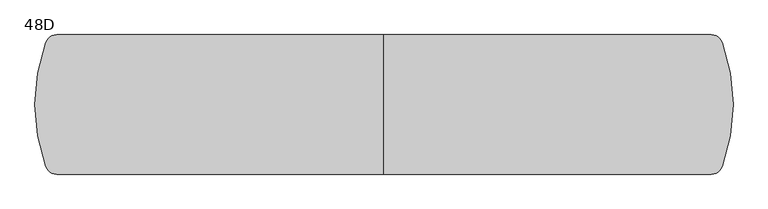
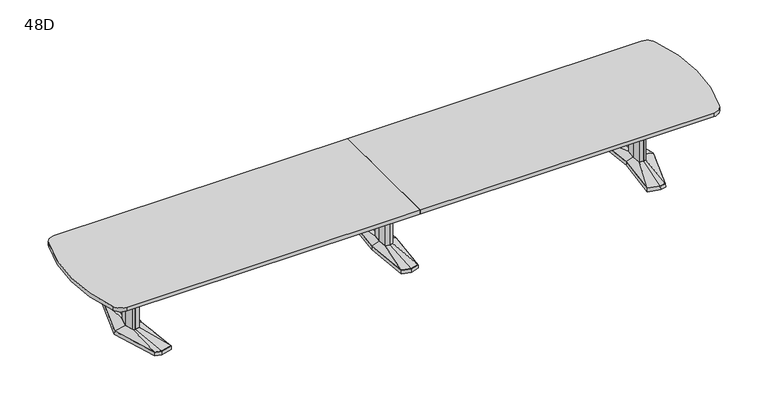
"""IFC4 building model written with IfcOpenShell, lengths in millimetres: furniture geometry, Coalesse_AM_Table_Conference_ETable2_SoftRadiused_20ft_AluminiumBase : 48D."""

from ifc_helpers import new_model, si_unit, point, frame, frame_2d, origin, place, context, project, spatial, polyline, circle_curve, trimmed, segment, composite_curve, outline, extrude, faceted_brep, source, transform, mapped, element, save
from ifc_brep_helpers import plane_surface, spline_surface, advanced_brep


def furniture_48d_c8c20718(model_context):
    return source(origin(), model_context, "Body", "SolidModel", [
        faceted_brep([(-81.2333791, -433.8053819, 38.1), (0.0, -455.556576, 38.1), (81.2333791, -433.8053819, 38.1), (119.0564774, 0.0, 38.1), (81.2333791, 433.8053819, 38.1), (0.0, 455.556576, 38.1), (-81.2333791, 433.8053819, 38.1), (-119.0564774, 0.0, 38.1), (-82.7182795, -435.0512063, 3.175), (-120.65, 0.0, 3.175), (-82.7182795, 435.0512063, 3.175), (0.0, 457.2, 3.175), (82.7182795, 435.0512063, 3.175), (120.65, 0.0, 3.175), (82.7182795, -435.0512063, 3.175), (0.0, -457.2, 3.175), (0.0, 429.2617927, 3.175), (-77.9676806, 408.3850278, 3.175), (-74.7019821, 382.9646737, 3.175), (0.0, 402.9670094, 3.175), (74.7019821, 382.9646737, 3.175), (77.9676806, 408.3850278, 3.175), (0.0, -429.2617927, 3.175), (77.9676806, -408.3850278, 3.175), (74.7019821, -382.9646737, 3.175), (0.0, -402.9670094, 3.175), (-74.7019821, -382.9646737, 3.175), (-77.9676806, -408.3850278, 3.175), (-71.8574262, 114.6326257, 3.175), (-82.5426076, 0.0, 3.175), (-71.8574262, -114.6326257, 3.175), (0.0, -133.8761372, 3.175), (71.8574262, -114.6326257, 3.175), (82.5426076, 0.0, 3.175), (71.8574262, 114.6326257, 3.175), (0.0, 133.8761372, 3.175), (0.0, 429.2617927, 0.0), (77.9676806, 408.3850278, 0.0), (74.7019821, 382.9646737, 0.0), (0.0, 402.9670094, 0.0), (-74.7019821, 382.9646737, 0.0), (-77.9676806, 408.3850278, 0.0), (0.0, -429.2617927, 0.0), (-77.9676806, -408.3850278, 0.0), (-74.7019821, -382.9646737, 0.0), (0.0, -402.9670094, 0.0), (74.7019821, -382.9646737, 0.0), (77.9676806, -408.3850278, 0.0), (-71.8574262, 114.6326257, 0.0), (0.0, 133.8761372, 0.0), (71.8574262, 114.6326257, 0.0), (82.5426076, 0.0, 0.0), (71.8574262, -114.6326257, 0.0), (0.0, -133.8761372, 0.0), (-71.8574262, -114.6326257, 0.0), (-82.5426076, 0.0, 0.0)], [[[0, 1, 2, 3, 4, 5, 6, 7]], [[8, 9, 10, 11, 12, 13, 14, 15], [16, 17, 18, 19, 20, 21], [22, 23, 24, 25, 26, 27], [28, 29, 30, 31, 32, 33, 34, 35]], [[1, 0, 8, 15]], [[2, 1, 15, 14]], [[3, 2, 14, 13]], [[4, 3, 13, 12]], [[5, 4, 12, 11]], [[6, 5, 11, 10]], [[7, 6, 10, 9]], [[0, 7, 9, 8]], [[36, 37, 38, 39, 40, 41]], [[42, 43, 44, 45, 46, 47]], [[48, 49, 50, 51, 52, 53, 54, 55]], [[36, 41, 17, 16]], [[41, 40, 18, 17]], [[40, 39, 19, 18]], [[39, 38, 20, 19]], [[38, 37, 21, 20]], [[37, 36, 16, 21]], [[42, 47, 23, 22]], [[47, 46, 24, 23]], [[46, 45, 25, 24]], [[45, 44, 26, 25]], [[44, 43, 27, 26]], [[43, 42, 22, 27]], [[48, 55, 29, 28]], [[55, 54, 30, 29]], [[54, 53, 31, 30]], [[53, 52, 32, 31]], [[52, 51, 33, 32]], [[51, 50, 34, 33]], [[50, 49, 35, 34]], [[49, 48, 28, 35]]]),
        faceted_brep([(-36.3832834, 84.6900825, 698.5), (-44.2774487, 0.0, 698.5), (-36.3832834, -84.6900825, 698.5), (0.0, -94.4335728, 698.5), (36.3832834, -84.6900825, 698.5), (44.2774487, 0.0, 698.5), (36.3832834, 84.6900825, 698.5), (0.0, 94.4335728, 698.5), (-36.3832834, 84.6900825, 63.5), (0.0, 94.4335728, 63.5), (36.3832834, 84.6900825, 63.5), (44.2774487, 0.0, 63.5), (36.3832834, -84.6900825, 63.5), (0.0, -94.4335728, 63.5), (-36.3832834, -84.6900825, 63.5), (-44.2774487, 0.0, 63.5)], [[[0, 1, 2, 3, 4, 5, 6, 7]], [[8, 9, 10, 11, 12, 13, 14, 15]], [[1, 0, 8, 15]], [[2, 1, 15, 14]], [[3, 2, 14, 13]], [[4, 3, 13, 12]], [[5, 4, 12, 11]], [[6, 5, 11, 10]], [[7, 6, 10, 9]], [[0, 7, 9, 8]]]),
        advanced_brep(
        [(-36.3832834, 84.6900825, 63.5), (-44.2774487, 0.0, 63.5), (-36.3832834, -84.6900825, 63.5), (0.0, -94.4335728, 63.5), (36.3832834, -84.6900825, 63.5), (44.2774487, 0.0, 63.5), (36.3832834, 84.6900825, 63.5), (0.0, 94.4335728, 63.5), (-81.2333791, 433.8053819, 38.1), (0.0, 455.556576, 38.1), (81.2333791, 433.8053819, 38.1), (119.0564774, 0.0, 38.1), (81.2333791, -433.8053819, 38.1), (0.0, -455.556576, 38.1), (-81.2333791, -433.8053819, 38.1), (-119.0564774, 0.0, 38.1)],
        [
            (0, 1),
            (1, 2),
            (2, 3),
            (3, 4),
            (4, 5),
            (5, 6),
            (6, 7),
            (7, 0),
            (8, 9),
            (9, 10),
            (10, 11),
            (11, 12),
            (12, 13),
            (13, 14),
            (14, 15),
            (15, 8),
            (15, 1),
            (0, 8),
            (14, 2),
            (13, 3),
            (12, 4),
            (11, 5),
            (10, 6),
            (9, 7),
        ],
        [
            plane_surface(frame((0.0, 0.0, 63.5), z_axis=(0.0, 0.0, 1.0000000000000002), x_axis=(-0.9659615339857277, -0.25868574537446, 0.0))),
            plane_surface(frame((0.0, 0.0, 38.1), z_axis=(0.0, 0.0, -1.0000000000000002), x_axis=(-0.9659615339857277, -0.25868574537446, 0.0))),
            spline_surface(1, 1, [[(-81.2333791, 433.8053819, 38.1), (-36.3832834, 84.6900825, 63.5)], [(-119.0564774, 0.0, 38.1), (-44.2774487, 0.0, 63.5)]], [2, 2], [2, 2], [0.0, 1.0], [0.0, 1.0]),
            spline_surface(1, 1, [[(-119.0564774, 0.0, 38.1), (-44.2774487, 0.0, 63.5)], [(-81.2333791, -433.8053819, 38.1), (-36.3832834, -84.6900825, 63.5)]], [2, 2], [2, 2], [0.0, 1.0], [0.0, 1.0]),
            spline_surface(1, 1, [[(-81.2333791, -433.8053819, 38.1), (-36.3832834, -84.6900825, 63.5)], [(0.0, -455.556576, 38.1), (0.0, -94.4335728, 63.5)]], [2, 2], [2, 2], [0.0, 1.0], [0.0, 1.0]),
            spline_surface(1, 1, [[(0.0, -455.556576, 38.1), (0.0, -94.4335728, 63.5)], [(81.2333791, -433.8053819, 38.1), (36.3832834, -84.6900825, 63.5)]], [2, 2], [2, 2], [0.0, 1.0], [0.0, 1.0]),
            spline_surface(1, 1, [[(81.2333791, -433.8053819, 38.1), (36.3832834, -84.6900825, 63.5)], [(119.0564774, 0.0, 38.1), (44.2774487, 0.0, 63.5)]], [2, 2], [2, 2], [0.0, 1.0], [0.0, 1.0]),
            spline_surface(1, 1, [[(119.0564774, 0.0, 38.1), (44.2774487, 0.0, 63.5)], [(81.2333791, 433.8053819, 38.1), (36.3832834, 84.6900825, 63.5)]], [2, 2], [2, 2], [0.0, 1.0], [0.0, 1.0]),
            spline_surface(1, 1, [[(81.2333791, 433.8053819, 38.1), (36.3832834, 84.6900825, 63.5)], [(0.0, 455.556576, 38.1), (0.0, 94.4335728, 63.5)]], [2, 2], [2, 2], [0.0, 1.0], [0.0, 1.0]),
            spline_surface(1, 1, [[(0.0, 455.556576, 38.1), (0.0, 94.4335728, 63.5)], [(-81.2333791, 433.8053819, 38.1), (-36.3832834, 84.6900825, 63.5)]], [2, 2], [2, 2], [0.0, 1.0], [0.0, 1.0]),
        ],
        [
            (0, [[1, 2, 3, 4, 5, 6, 7, 8]]),
            (1, [[9, 10, 11, 12, 13, 14, 15, 16]]),
            (2, [[-16, 17, -1, 18]]),
            (3, [[-15, 19, -2, -17]]),
            (4, [[-14, 20, -3, -19]]),
            (5, [[-13, 21, -4, -20]]),
            (6, [[-12, 22, -5, -21]]),
            (7, [[-11, 23, -6, -22]]),
            (8, [[-10, 24, -7, -23]]),
            (9, [[-9, -18, -8, -24]]),
        ],
    ),
        faceted_brep([(2429.8306835, 455.5848221, 38.1), (2320.2531277, 426.2263816, 38.1), (2361.4163717, 0.0, 38.1), (2320.2531277, -426.2263816, 38.1), (2429.8306835, -455.5848221, 38.1), (2485.9570396, -440.5478297, 38.1), (2623.2684269, 0.0, 38.1), (2485.9570396, 440.5478297, 38.1), (2429.8306754, 457.2283104, 3.175), (2487.2124472, 441.8549756, 3.175), (2624.93125, 0.0, 3.175), (2487.2124472, -441.8549756, 3.175), (2429.8306754, -457.2283104, 3.175), (2318.54375, -427.4118891, 3.175), (2359.8214856, 0.0, 3.175), (2318.54375, 427.4118891, 3.175), (2433.420115, 428.3273875, 3.175), (2328.3718228, 402.1057253, 3.175), (2336.490518, 377.985069, 3.175), (2437.0095466, 401.0699529, 3.175), (2487.5691725, 387.524361, 3.175), (2486.7631061, 414.0360954, 3.175), (2433.420115, -428.3273875, 3.175), (2486.7631061, -414.0360954, 3.175), (2487.5691725, -387.524361, 3.175), (2437.0095466, -401.0699529, 3.175), (2336.490518, -377.985069, 3.175), (2328.3718228, -402.1057253, 3.175), (2560.0153621, 0.0, 3.175), (2527.7459611, 120.4193755, 3.175), (2479.0987222, 133.471665, 3.175), (2399.2180526, 119.4176561, 3.175), (2388.0868466, 0.0, 3.175), (2399.2180526, -119.4176561, 3.175), (2479.0987222, -133.471665, 3.175), (2527.7459611, -120.4193755, 3.175), (2433.420115, 428.3273875, 0.0), (2486.7631061, 414.0360954, 0.0), (2487.5691725, 387.524361, 0.0), (2437.0095466, 401.0699529, 0.0), (2336.490518, 377.985069, 0.0), (2328.3718228, 402.1057253, 0.0), (2433.420115, -428.3273875, 0.0), (2328.3718228, -402.1057253, 0.0), (2336.490518, -377.985069, 0.0), (2437.0095466, -401.0699529, 0.0), (2487.5691725, -387.524361, 0.0), (2486.7631061, -414.0360954, 0.0), (2560.0153621, 0.0, 0.0), (2527.7459611, -120.4193755, 0.0), (2479.0987222, -133.471665, 0.0), (2399.2180526, -119.4176561, 0.0), (2388.0868466, 0.0, 0.0), (2399.2180526, 119.4176561, 0.0), (2479.0987222, 133.471665, 0.0), (2527.7459611, 120.4193755, 0.0)], [[[0, 1, 2, 3, 4, 5, 6, 7]], [[8, 9, 10, 11, 12, 13, 14, 15], [16, 17, 18, 19, 20, 21], [22, 23, 24, 25, 26, 27], [28, 29, 30, 31, 32, 33, 34, 35]], [[7, 9, 8, 0]], [[6, 10, 9, 7]], [[5, 11, 10, 6]], [[4, 12, 11, 5]], [[3, 13, 12, 4]], [[2, 14, 13, 3]], [[1, 15, 14, 2]], [[0, 8, 15, 1]], [[36, 37, 38, 39, 40, 41]], [[42, 43, 44, 45, 46, 47]], [[48, 49, 50, 51, 52, 53, 54, 55]], [[36, 16, 21, 37]], [[37, 21, 20, 38]], [[38, 20, 19, 39]], [[39, 19, 18, 40]], [[40, 18, 17, 41]], [[41, 17, 16, 36]], [[42, 22, 27, 43]], [[43, 27, 26, 44]], [[44, 26, 25, 45]], [[45, 25, 24, 46]], [[46, 24, 23, 47]], [[47, 23, 22, 42]], [[48, 28, 35, 49]], [[49, 35, 34, 50]], [[50, 34, 33, 51]], [[51, 33, 32, 52]], [[52, 32, 31, 53]], [[53, 31, 30, 54]], [[54, 30, 29, 55]], [[55, 29, 28, 48]]]),
        faceted_brep([(2520.5710836, 0.0, 698.5), (2496.6358546, 89.3188359, 698.5), (2479.7824984, 93.8406728, 698.5), (2477.3826511, 94.4845635, 698.5), (2434.455146, 86.9320037, 698.5), (2426.3520056, 0.0, 698.5), (2434.455146, -86.9320037, 698.5), (2477.3826511, -94.4845635, 698.5), (2479.7824984, -93.8406728, 698.5), (2496.6358546, -89.3188359, 698.5), (2520.5710836, 0.0, 63.5), (2496.6358546, -89.3188359, 63.5), (2479.7824984, -93.8406728, 63.5), (2477.3826511, -94.4845635, 63.5), (2434.455146, -86.9320037, 63.5), (2426.3520056, 0.0, 63.5), (2434.455146, 86.9320037, 63.5), (2477.3826511, 94.4845635, 63.5), (2479.7824984, 93.8406728, 63.5), (2496.6358546, 89.3188359, 63.5)], [[[0, 1, 2, 3, 4, 5, 6, 7, 8, 9]], [[10, 11, 12, 13, 14, 15, 16, 17, 18, 19]], [[9, 11, 10, 0]], [[8, 12, 11, 9]], [[7, 13, 12, 8]], [[6, 14, 13, 7]], [[5, 15, 14, 6]], [[4, 16, 15, 5]], [[3, 17, 16, 4]], [[2, 18, 17, 3]], [[1, 19, 18, 2]], [[0, 10, 19, 1]]]),
        advanced_brep(
        [(2477.3826511, 94.4845635, 63.5), (2434.455146, 86.9320037, 63.5), (2426.3520056, 0.0, 63.5), (2434.455146, -86.9320037, 63.5), (2477.3826511, -94.4845635, 63.5), (2496.6358546, -89.3188359, 63.5), (2520.5710836, 0.0, 63.5), (2496.6358546, 89.3188359, 63.5), (2429.8306835, 455.5848221, 38.1), (2485.9570396, 440.5478297, 38.1), (2623.2684269, 0.0, 38.1), (2485.9570396, -440.5478297, 38.1), (2429.8306835, -455.5848221, 38.1), (2320.2531277, -426.2263816, 38.1), (2361.4163717, 0.0, 38.1), (2320.2531277, 426.2263816, 38.1)],
        [
            (0, 1),
            (1, 2),
            (2, 3),
            (3, 4),
            (4, 5),
            (5, 6),
            (6, 7),
            (7, 0),
            (8, 9),
            (9, 10),
            (10, 11),
            (11, 12),
            (12, 13),
            (13, 14),
            (14, 15),
            (15, 8),
            (8, 0),
            (7, 9),
            (6, 10),
            (5, 11),
            (4, 12),
            (3, 13),
            (2, 14),
            (1, 15),
        ],
        [
            plane_surface(frame((2470.4837991, 0.0, 63.5), z_axis=(0.0, 0.0, 1.0), x_axis=(-0.25884244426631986, -0.9659195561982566, 0.0))),
            plane_surface(frame((2432.0958125, 0.0, 38.1), z_axis=(0.0, 0.0, -1.0), x_axis=(-0.25884244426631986, -0.9659195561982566, 0.0))),
            spline_surface(1, 1, [[(2429.8306835, 455.5848221, 38.1), (2485.9570396, 440.5478297, 38.1)], [(2477.3826511, 94.4845635, 63.5), (2496.6358546, 89.3188359, 63.5)]], [2, 2], [2, 2], [0.0, 1.0], [0.0, 1.0]),
            spline_surface(1, 1, [[(2485.9570396, 440.5478297, 38.1), (2623.2684269, 0.0, 38.1)], [(2496.6358546, 89.3188359, 63.5), (2520.5710836, 0.0, 63.5)]], [2, 2], [2, 2], [0.0, 1.0], [0.0, 1.0]),
            spline_surface(1, 1, [[(2623.2684269, 0.0, 38.1), (2485.9570396, -440.5478297, 38.1)], [(2520.5710836, 0.0, 63.5), (2496.6358546, -89.3188359, 63.5)]], [2, 2], [2, 2], [0.0, 1.0], [0.0, 1.0]),
            spline_surface(1, 1, [[(2485.9570396, -440.5478297, 38.1), (2429.8306835, -455.5848221, 38.1)], [(2496.6358546, -89.3188359, 63.5), (2477.3826511, -94.4845635, 63.5)]], [2, 2], [2, 2], [0.0, 1.0], [0.0, 1.0]),
            spline_surface(1, 1, [[(2429.8306835, -455.5848221, 38.1), (2320.2531277, -426.2263816, 38.1)], [(2477.3826511, -94.4845635, 63.5), (2434.455146, -86.9320037, 63.5)]], [2, 2], [2, 2], [0.0, 1.0], [0.0, 1.0]),
            spline_surface(1, 1, [[(2320.2531277, -426.2263816, 38.1), (2361.4163717, 0.0, 38.1)], [(2434.455146, -86.9320037, 63.5), (2426.3520056, 0.0, 63.5)]], [2, 2], [2, 2], [0.0, 1.0], [0.0, 1.0]),
            spline_surface(1, 1, [[(2361.4163717, 0.0, 38.1), (2320.2531277, 426.2263816, 38.1)], [(2426.3520056, 0.0, 63.5), (2434.455146, 86.9320037, 63.5)]], [2, 2], [2, 2], [0.0, 1.0], [0.0, 1.0]),
            spline_surface(1, 1, [[(2320.2531277, 426.2263816, 38.1), (2429.8306835, 455.5848221, 38.1)], [(2434.455146, 86.9320037, 63.5), (2477.3826511, 94.4845635, 63.5)]], [2, 2], [2, 2], [0.0, 1.0], [0.0, 1.0]),
        ],
        [
            (0, [[1, 2, 3, 4, 5, 6, 7, 8]]),
            (1, [[9, 10, 11, 12, 13, 14, 15, 16]]),
            (2, [[17, -8, 18, -9]]),
            (3, [[-18, -7, 19, -10]]),
            (4, [[-19, -6, 20, -11]]),
            (5, [[-20, -5, 21, -12]]),
            (6, [[-21, -4, 22, -13]]),
            (7, [[-22, -3, 23, -14]]),
            (8, [[-23, -2, 24, -15]]),
            (9, [[-24, -1, -17, -16]]),
        ],
    ),
        faceted_brep([(-2429.8306835, 455.5848221, 38.1), (-2485.9570396, 440.5478297, 38.1), (-2623.2684269, 0.0, 38.1), (-2485.9570396, -440.5478297, 38.1), (-2429.8306835, -455.5848221, 38.1), (-2320.2531277, -426.2263816, 38.1), (-2361.4163717, 0.0, 38.1), (-2320.2531277, 426.2263816, 38.1), (-2429.8306754, 457.2283104, 3.175), (-2318.54375, 427.4118891, 3.175), (-2359.8214856, 0.0, 3.175), (-2318.54375, -427.4118891, 3.175), (-2429.8306754, -457.2283104, 3.175), (-2487.2124472, -441.8549756, 3.175), (-2624.93125, 0.0, 3.175), (-2487.2124472, 441.8549756, 3.175), (-2433.420115, 428.3273875, 3.175), (-2486.7631061, 414.0360954, 3.175), (-2487.5691725, 387.524361, 3.175), (-2437.0095466, 401.0699529, 3.175), (-2336.490518, 377.985069, 3.175), (-2328.3718228, 402.1057253, 3.175), (-2433.420115, -428.3273875, 3.175), (-2328.3718228, -402.1057253, 3.175), (-2336.490518, -377.985069, 3.175), (-2437.0095466, -401.0699529, 3.175), (-2487.5691725, -387.524361, 3.175), (-2486.7631061, -414.0360954, 3.175), (-2560.0153621, 0.0, 3.175), (-2527.7459611, -120.4193755, 3.175), (-2479.0987222, -133.471665, 3.175), (-2399.2180526, -119.4176561, 3.175), (-2388.0868466, 0.0, 3.175), (-2399.2180526, 119.4176561, 3.175), (-2479.0987222, 133.471665, 3.175), (-2527.7459611, 120.4193755, 3.175), (-2433.420115, 428.3273875, 0.0), (-2328.3718228, 402.1057253, 0.0), (-2336.490518, 377.985069, 0.0), (-2437.0095466, 401.0699529, 0.0), (-2487.5691725, 387.524361, 0.0), (-2486.7631061, 414.0360954, 0.0), (-2433.420115, -428.3273875, 0.0), (-2486.7631061, -414.0360954, 0.0), (-2487.5691725, -387.524361, 0.0), (-2437.0095466, -401.0699529, 0.0), (-2336.490518, -377.985069, 0.0), (-2328.3718228, -402.1057253, 0.0), (-2560.0153621, 0.0, 0.0), (-2527.7459611, 120.4193755, 0.0), (-2479.0987222, 133.471665, 0.0), (-2399.2180526, 119.4176561, 0.0), (-2388.0868466, 0.0, 0.0), (-2399.2180526, -119.4176561, 0.0), (-2479.0987222, -133.471665, 0.0), (-2527.7459611, -120.4193755, 0.0)], [[[0, 1, 2, 3, 4, 5, 6, 7]], [[8, 9, 10, 11, 12, 13, 14, 15], [16, 17, 18, 19, 20, 21], [22, 23, 24, 25, 26, 27], [28, 29, 30, 31, 32, 33, 34, 35]], [[1, 0, 8, 15]], [[2, 1, 15, 14]], [[3, 2, 14, 13]], [[4, 3, 13, 12]], [[5, 4, 12, 11]], [[6, 5, 11, 10]], [[7, 6, 10, 9]], [[0, 7, 9, 8]], [[36, 37, 38, 39, 40, 41]], [[42, 43, 44, 45, 46, 47]], [[48, 49, 50, 51, 52, 53, 54, 55]], [[36, 41, 17, 16]], [[41, 40, 18, 17]], [[40, 39, 19, 18]], [[39, 38, 20, 19]], [[38, 37, 21, 20]], [[37, 36, 16, 21]], [[42, 47, 23, 22]], [[47, 46, 24, 23]], [[46, 45, 25, 24]], [[45, 44, 26, 25]], [[44, 43, 27, 26]], [[43, 42, 22, 27]], [[48, 55, 29, 28]], [[55, 54, 30, 29]], [[54, 53, 31, 30]], [[53, 52, 32, 31]], [[52, 51, 33, 32]], [[51, 50, 34, 33]], [[50, 49, 35, 34]], [[49, 48, 28, 35]]]),
        faceted_brep([(-2520.5710836, 0.0, 698.5), (-2496.6358546, -89.3188359, 698.5), (-2479.7824984, -93.8406728, 698.5), (-2477.3826511, -94.4845635, 698.5), (-2434.455146, -86.9320037, 698.5), (-2426.3520056, 0.0, 698.5), (-2434.455146, 86.9320037, 698.5), (-2477.3826511, 94.4845635, 698.5), (-2479.7824984, 93.8406728, 698.5), (-2496.6358546, 89.3188359, 698.5), (-2520.5710836, 0.0, 63.5), (-2496.6358546, 89.3188359, 63.5), (-2479.7824984, 93.8406728, 63.5), (-2477.3826511, 94.4845635, 63.5), (-2434.455146, 86.9320037, 63.5), (-2426.3520056, 0.0, 63.5), (-2434.455146, -86.9320037, 63.5), (-2477.3826511, -94.4845635, 63.5), (-2479.7824984, -93.8406728, 63.5), (-2496.6358546, -89.3188359, 63.5)], [[[0, 1, 2, 3, 4, 5, 6, 7, 8, 9]], [[10, 11, 12, 13, 14, 15, 16, 17, 18, 19]], [[1, 0, 10, 19]], [[2, 1, 19, 18]], [[3, 2, 18, 17]], [[4, 3, 17, 16]], [[5, 4, 16, 15]], [[6, 5, 15, 14]], [[7, 6, 14, 13]], [[8, 7, 13, 12]], [[9, 8, 12, 11]], [[0, 9, 11, 10]]]),
        advanced_brep(
        [(-2477.3826511, 94.4845635, 63.5), (-2496.6358546, 89.3188359, 63.5), (-2520.5710836, 0.0, 63.5), (-2496.6358546, -89.3188359, 63.5), (-2477.3826511, -94.4845635, 63.5), (-2434.455146, -86.9320037, 63.5), (-2426.3520056, 0.0, 63.5), (-2434.455146, 86.9320037, 63.5), (-2429.8306835, 455.5848221, 38.1), (-2320.2531277, 426.2263816, 38.1), (-2361.4163717, 0.0, 38.1), (-2320.2531277, -426.2263816, 38.1), (-2429.8306835, -455.5848221, 38.1), (-2485.9570396, -440.5478297, 38.1), (-2623.2684269, 0.0, 38.1), (-2485.9570396, 440.5478297, 38.1)],
        [
            (0, 1),
            (1, 2),
            (2, 3),
            (3, 4),
            (4, 5),
            (5, 6),
            (6, 7),
            (7, 0),
            (8, 9),
            (9, 10),
            (10, 11),
            (11, 12),
            (12, 13),
            (13, 14),
            (14, 15),
            (15, 8),
            (15, 1),
            (0, 8),
            (14, 2),
            (13, 3),
            (12, 4),
            (11, 5),
            (10, 6),
            (9, 7),
        ],
        [
            plane_surface(frame((-2470.4837991, 0.0, 63.5), z_axis=(0.0, 0.0, 1.0), x_axis=(0.25884244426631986, -0.9659195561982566, 0.0))),
            plane_surface(frame((-2432.0958125, 0.0, 38.1), z_axis=(0.0, 0.0, -1.0), x_axis=(0.25884244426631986, -0.9659195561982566, 0.0))),
            spline_surface(1, 1, [[(-2429.8306835, 455.5848221, 38.1), (-2477.3826511, 94.4845635, 63.5)], [(-2485.9570396, 440.5478297, 38.1), (-2496.6358546, 89.3188359, 63.5)]], [2, 2], [2, 2], [0.0, 1.0], [0.0, 1.0]),
            spline_surface(1, 1, [[(-2485.9570396, 440.5478297, 38.1), (-2496.6358546, 89.3188359, 63.5)], [(-2623.2684269, 0.0, 38.1), (-2520.5710836, 0.0, 63.5)]], [2, 2], [2, 2], [0.0, 1.0], [0.0, 1.0]),
            spline_surface(1, 1, [[(-2623.2684269, 0.0, 38.1), (-2520.5710836, 0.0, 63.5)], [(-2485.9570396, -440.5478297, 38.1), (-2496.6358546, -89.3188359, 63.5)]], [2, 2], [2, 2], [0.0, 1.0], [0.0, 1.0]),
            spline_surface(1, 1, [[(-2485.9570396, -440.5478297, 38.1), (-2496.6358546, -89.3188359, 63.5)], [(-2429.8306835, -455.5848221, 38.1), (-2477.3826511, -94.4845635, 63.5)]], [2, 2], [2, 2], [0.0, 1.0], [0.0, 1.0]),
            spline_surface(1, 1, [[(-2429.8306835, -455.5848221, 38.1), (-2477.3826511, -94.4845635, 63.5)], [(-2320.2531277, -426.2263816, 38.1), (-2434.455146, -86.9320037, 63.5)]], [2, 2], [2, 2], [0.0, 1.0], [0.0, 1.0]),
            spline_surface(1, 1, [[(-2320.2531277, -426.2263816, 38.1), (-2434.455146, -86.9320037, 63.5)], [(-2361.4163717, 0.0, 38.1), (-2426.3520056, 0.0, 63.5)]], [2, 2], [2, 2], [0.0, 1.0], [0.0, 1.0]),
            spline_surface(1, 1, [[(-2361.4163717, 0.0, 38.1), (-2426.3520056, 0.0, 63.5)], [(-2320.2531277, 426.2263816, 38.1), (-2434.455146, 86.9320037, 63.5)]], [2, 2], [2, 2], [0.0, 1.0], [0.0, 1.0]),
            spline_surface(1, 1, [[(-2320.2531277, 426.2263816, 38.1), (-2434.455146, 86.9320037, 63.5)], [(-2429.8306835, 455.5848221, 38.1), (-2477.3826511, 94.4845635, 63.5)]], [2, 2], [2, 2], [0.0, 1.0], [0.0, 1.0]),
        ],
        [
            (0, [[1, 2, 3, 4, 5, 6, 7, 8]]),
            (1, [[9, 10, 11, 12, 13, 14, 15, 16]]),
            (2, [[-16, 17, -1, 18]]),
            (3, [[-15, 19, -2, -17]]),
            (4, [[-14, 20, -3, -19]]),
            (5, [[-13, 21, -4, -20]]),
            (6, [[-12, 22, -5, -21]]),
            (7, [[-11, 23, -6, -22]]),
            (8, [[-10, 24, -7, -23]]),
            (9, [[-9, -18, -8, -24]]),
        ],
    ),
        extrude(outline(polyline([(96.8375, 698.5), (103.1875, 698.5), (103.1875, 476.25), (-103.1875, 476.25), (-103.1875, 698.5), (-96.8375, 698.5), (-96.8375, 482.6), (96.8375, 482.6), (96.8375, 698.5)])), frame((44.2774487, 0.0, 0.0), z_axis=(1.0, 0.0, 0.0), x_axis=(0.0, 1.0, 0.0)), (0.0, 0.0, 1.0), 2382.2163013),
        extrude(outline(composite_curve([segment(trimmed(circle_curve(frame_2d((2858.8557965, 508.0)), 101.6), [point((2858.8557965, 609.6))], [point((2954.6453259, 541.8662966))], False, "CARTESIAN"), True, "CONTINUOUS"), segment(trimmed(circle_curve(frame_2d((1429.223713, 0.0)), 1618.8051707), [point((2954.6453259, 541.8662966))], [point((2954.6453259, -541.8662966))], False, "CARTESIAN"), True, "CONTINUOUS"), segment(trimmed(circle_curve(frame_2d((2858.8557965, -508.0)), 101.6), [point((2954.6453259, -541.8662966))], [point((2858.8557965, -609.6))], False, "CARTESIAN"), True, "CONTINUOUS"), segment(polyline([(2858.8557965, -609.6), (0.0, -609.6), (0.0, 609.6), (2858.8557965, 609.6)]), True, "CONTINUOUS")], self_intersect=False)), frame((0.0, 0.0, 698.5), z_axis=(0.0, 0.0, 1.0), x_axis=(1.0, 0.0, 0.0)), (0.0, 0.0, 1.0), 38.1),
        extrude(outline(composite_curve([segment(polyline([(-2858.8557965, 609.6), (0.0, 609.6), (0.0, -609.6), (-2858.8557965, -609.6)]), True, "CONTINUOUS"), segment(trimmed(circle_curve(frame_2d((-2858.8557965, -508.0)), 101.6), [point((-2858.8557965, -609.6))], [point((-2954.6453259, -541.8662966))], False, "CARTESIAN"), True, "CONTINUOUS"), segment(polyline([(-2954.6453259, -541.8662966), (-2955.3956256, -539.7441026)]), True, "CONTINUOUS"), segment(trimmed(circle_curve(frame_2d((-1428.75, 0.0)), 1619.25), [point((-2955.3956256, -539.7441026))], [point((-2955.3956256, 539.7441026))], False, "CARTESIAN"), True, "CONTINUOUS"), segment(polyline([(-2955.3956256, 539.7441026), (-2954.6453259, 541.8662966)]), True, "CONTINUOUS"), segment(trimmed(circle_curve(frame_2d((-2858.8557965, 508.0)), 101.6), [point((-2954.6453259, 541.8662966))], [point((-2858.8557965, 609.6))], False, "CARTESIAN"), True, "CONTINUOUS")], self_intersect=False)), frame((0.0, 0.0, 698.5), z_axis=(0.0, 0.0, 1.0), x_axis=(1.0, 0.0, 0.0)), (0.0, 0.0, 1.0), 38.1),
        extrude(outline(polyline([(96.8375, 698.5), (103.1875, 698.5), (103.1875, 476.25), (-103.1875, 476.25), (-103.1875, 698.5), (-96.8375, 698.5), (-96.8375, 482.6), (96.8375, 482.6), (96.8375, 698.5)])), frame((-2426.49375, 0.0, 0.0), z_axis=(1.0, 0.0, 0.0), x_axis=(0.0, 1.0, 0.0)), (0.0, 0.0, 1.0), 2382.2163013),
    ])


if __name__ == "__main__":
    model = new_model("IFC4")
    model_context = context("Model", 3, world=origin())
    ifc_project = project(units=[si_unit("LENGTHUNIT", "METRE", prefix="MILLI")], contexts=[model_context])
    site = spatial("IfcSite", under=ifc_project)
    building = spatial("IfcBuilding", under=site)
    placement = place(None, origin())
    furniture_48d_shape = furniture_48d_c8c20718(model_context)
    element("IfcFurniture", 1, ObjectType="Coalesse_AM_Table_Conference_ETable2_SoftRadiused_20ft_AluminiumBase : 48D", at=placement, inside=building, context=model_context, shape_type="MappedRepresentation", body=[
        mapped(furniture_48d_shape, transform((0.0, 0.0, 0.0), x_axis=(1.0, 0.0, 0.0), y_axis=(0.0, 1.0, 0.0), z_axis=(0.0, 0.0, 1.0))),
    ])
    save(model, "model.ifc")
